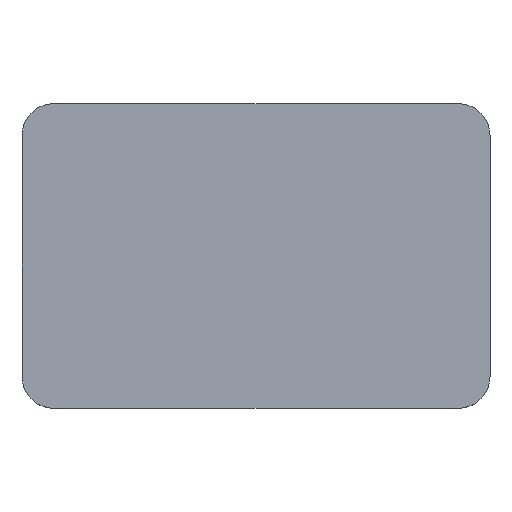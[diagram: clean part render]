
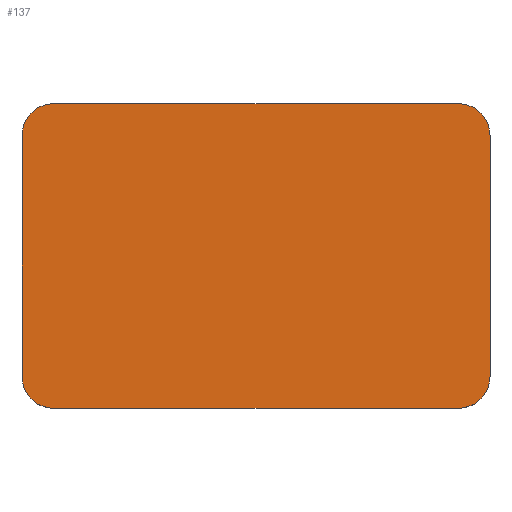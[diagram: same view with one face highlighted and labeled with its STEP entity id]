
A CAD part, top view. The second image highlights one B-rep face of the part: STEP entity #137.
In plain terms, the highlighted planar face has unit normal (0, 0, 1).
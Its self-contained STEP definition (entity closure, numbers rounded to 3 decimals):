
#21 = EDGE_CURVE('',#22,#24,#26,.T.);
#22 = VERTEX_POINT('',#23);
#23 = CARTESIAN_POINT('',(-25.65,-13.2,12.2));
#24 = VERTEX_POINT('',#25);
#25 = CARTESIAN_POINT('',(-25.65,13.2,12.2));
#26 = SURFACE_CURVE('',#27,(#31,#43),.PCURVE_S1.);
#27 = LINE('',#28,#29);
#28 = CARTESIAN_POINT('',(-25.65,-16.7,12.2));
#29 = VECTOR('',#30,1.);
#30 = DIRECTION('',(0.,1.,0.));
#31 = PCURVE('',#32,#37);
#32 = PLANE('',#33);
#33 = AXIS2_PLACEMENT_3D('',#34,#35,#36);
#34 = CARTESIAN_POINT('',(-25.65,-16.7,8.));
#35 = DIRECTION('',(1.,0.,0.));
#36 = DIRECTION('',(0.,0.,1.));
#37 = DEFINITIONAL_REPRESENTATION('',(#38),#42);
#38 = LINE('',#39,#40);
#39 = CARTESIAN_POINT('',(4.2,0.));
#40 = VECTOR('',#41,1.);
#41 = DIRECTION('',(0.,-1.));
#42 = ( GEOMETRIC_REPRESENTATION_CONTEXT(2) 
PARAMETRIC_REPRESENTATION_CONTEXT() REPRESENTATION_CONTEXT('2D SPACE',''
  ) );
#43 = PCURVE('',#44,#49);
#44 = PLANE('',#45);
#45 = AXIS2_PLACEMENT_3D('',#46,#47,#48);
#46 = CARTESIAN_POINT('',(-25.65,-16.7,12.2));
#47 = DIRECTION('',(0.,0.,1.));
#48 = DIRECTION('',(1.,0.,0.));
#49 = DEFINITIONAL_REPRESENTATION('',(#50),#54);
#50 = LINE('',#51,#52);
#51 = CARTESIAN_POINT('',(0.,0.));
#52 = VECTOR('',#53,1.);
#53 = DIRECTION('',(0.,1.));
#54 = ( GEOMETRIC_REPRESENTATION_CONTEXT(2) 
PARAMETRIC_REPRESENTATION_CONTEXT() REPRESENTATION_CONTEXT('2D SPACE',''
  ) );
#72 = CYLINDRICAL_SURFACE('',#73,3.5);
#73 = AXIS2_PLACEMENT_3D('',#74,#75,#76);
#74 = CARTESIAN_POINT('',(-22.15,-13.2,8.));
#75 = DIRECTION('',(0.,0.,1.));
#76 = DIRECTION('',(-1.,-0.,0.));
#126 = CYLINDRICAL_SURFACE('',#127,3.5);
#127 = AXIS2_PLACEMENT_3D('',#128,#129,#130);
#128 = CARTESIAN_POINT('',(-22.15,13.2,8.));
#129 = DIRECTION('',(0.,0.,1.));
#130 = DIRECTION('',(-1.,-0.,0.));
#137 = ADVANCED_FACE('',(#138),#44,.T.);
#138 = FACE_BOUND('',#139,.T.);
#139 = EDGE_LOOP('',(#140,#141,#165,#193,#226,#254,#283,#311));
#140 = ORIENTED_EDGE('',*,*,#21,.F.);
#141 = ORIENTED_EDGE('',*,*,#142,.T.);
#142 = EDGE_CURVE('',#22,#143,#145,.T.);
#143 = VERTEX_POINT('',#144);
#144 = CARTESIAN_POINT('',(-22.15,-16.7,12.2));
#145 = SURFACE_CURVE('',#146,(#151,#158),.PCURVE_S1.);
#146 = CIRCLE('',#147,3.5);
#147 = AXIS2_PLACEMENT_3D('',#148,#149,#150);
#148 = CARTESIAN_POINT('',(-22.15,-13.2,12.2));
#149 = DIRECTION('',(0.,0.,1.));
#150 = DIRECTION('',(0.,-1.,0.));
#151 = PCURVE('',#44,#152);
#152 = DEFINITIONAL_REPRESENTATION('',(#153),#157);
#153 = CIRCLE('',#154,3.5);
#154 = AXIS2_PLACEMENT_2D('',#155,#156);
#155 = CARTESIAN_POINT('',(3.5,3.5));
#156 = DIRECTION('',(0.,-1.));
#157 = ( GEOMETRIC_REPRESENTATION_CONTEXT(2) 
PARAMETRIC_REPRESENTATION_CONTEXT() REPRESENTATION_CONTEXT('2D SPACE',''
  ) );
#158 = PCURVE('',#72,#159);
#159 = DEFINITIONAL_REPRESENTATION('',(#160),#164);
#160 = LINE('',#161,#162);
#161 = CARTESIAN_POINT('',(-4.712,4.2));
#162 = VECTOR('',#163,1.);
#163 = DIRECTION('',(1.,0.));
#164 = ( GEOMETRIC_REPRESENTATION_CONTEXT(2) 
PARAMETRIC_REPRESENTATION_CONTEXT() REPRESENTATION_CONTEXT('2D SPACE',''
  ) );
#165 = ORIENTED_EDGE('',*,*,#166,.T.);
#166 = EDGE_CURVE('',#143,#167,#169,.T.);
#167 = VERTEX_POINT('',#168);
#168 = CARTESIAN_POINT('',(22.15,-16.7,12.2));
#169 = SURFACE_CURVE('',#170,(#174,#181),.PCURVE_S1.);
#170 = LINE('',#171,#172);
#171 = CARTESIAN_POINT('',(-25.65,-16.7,12.2));
#172 = VECTOR('',#173,1.);
#173 = DIRECTION('',(1.,0.,0.));
#174 = PCURVE('',#44,#175);
#175 = DEFINITIONAL_REPRESENTATION('',(#176),#180);
#176 = LINE('',#177,#178);
#177 = CARTESIAN_POINT('',(0.,0.));
#178 = VECTOR('',#179,1.);
#179 = DIRECTION('',(1.,0.));
#180 = ( GEOMETRIC_REPRESENTATION_CONTEXT(2) 
PARAMETRIC_REPRESENTATION_CONTEXT() REPRESENTATION_CONTEXT('2D SPACE',''
  ) );
#181 = PCURVE('',#182,#187);
#182 = PLANE('',#183);
#183 = AXIS2_PLACEMENT_3D('',#184,#185,#186);
#184 = CARTESIAN_POINT('',(-25.65,-16.7,8.));
#185 = DIRECTION('',(0.,1.,0.));
#186 = DIRECTION('',(0.,0.,1.));
#187 = DEFINITIONAL_REPRESENTATION('',(#188),#192);
#188 = LINE('',#189,#190);
#189 = CARTESIAN_POINT('',(4.2,0.));
#190 = VECTOR('',#191,1.);
#191 = DIRECTION('',(0.,1.));
#192 = ( GEOMETRIC_REPRESENTATION_CONTEXT(2) 
PARAMETRIC_REPRESENTATION_CONTEXT() REPRESENTATION_CONTEXT('2D SPACE',''
  ) );
#193 = ORIENTED_EDGE('',*,*,#194,.F.);
#194 = EDGE_CURVE('',#195,#167,#197,.T.);
#195 = VERTEX_POINT('',#196);
#196 = CARTESIAN_POINT('',(25.65,-13.2,12.2));
#197 = SURFACE_CURVE('',#198,(#203,#214),.PCURVE_S1.);
#198 = CIRCLE('',#199,3.5);
#199 = AXIS2_PLACEMENT_3D('',#200,#201,#202);
#200 = CARTESIAN_POINT('',(22.15,-13.2,12.2));
#201 = DIRECTION('',(-0.,-0.,-1.));
#202 = DIRECTION('',(0.,-1.,0.));
#203 = PCURVE('',#44,#204);
#204 = DEFINITIONAL_REPRESENTATION('',(#205),#213);
#205 = ( BOUNDED_CURVE() B_SPLINE_CURVE(2,(#206,#207,#208,#209,#210,#211
,#212),.UNSPECIFIED.,.T.,.F.) B_SPLINE_CURVE_WITH_KNOTS((1,2,2,2,2,1),(
    -2.094,0.,2.094,4.189,6.283,
8.378),.UNSPECIFIED.) CURVE() GEOMETRIC_REPRESENTATION_ITEM() 
RATIONAL_B_SPLINE_CURVE((1.,0.5,1.,0.5,1.,0.5,1.)) REPRESENTATION_ITEM(
  '') );
#206 = CARTESIAN_POINT('',(47.8,0.));
#207 = CARTESIAN_POINT('',(41.738,0.));
#208 = CARTESIAN_POINT('',(44.769,5.25));
#209 = CARTESIAN_POINT('',(47.8,10.5));
#210 = CARTESIAN_POINT('',(50.831,5.25));
#211 = CARTESIAN_POINT('',(53.862,0.));
#212 = CARTESIAN_POINT('',(47.8,0.));
#213 = ( GEOMETRIC_REPRESENTATION_CONTEXT(2) 
PARAMETRIC_REPRESENTATION_CONTEXT() REPRESENTATION_CONTEXT('2D SPACE',''
  ) );
#214 = PCURVE('',#215,#220);
#215 = CYLINDRICAL_SURFACE('',#216,3.5);
#216 = AXIS2_PLACEMENT_3D('',#217,#218,#219);
#217 = CARTESIAN_POINT('',(22.15,-13.2,8.));
#218 = DIRECTION('',(0.,0.,1.));
#219 = DIRECTION('',(1.,0.,-0.));
#220 = DEFINITIONAL_REPRESENTATION('',(#221),#225);
#221 = LINE('',#222,#223);
#222 = CARTESIAN_POINT('',(4.712,4.2));
#223 = VECTOR('',#224,1.);
#224 = DIRECTION('',(-1.,0.));
#225 = ( GEOMETRIC_REPRESENTATION_CONTEXT(2) 
PARAMETRIC_REPRESENTATION_CONTEXT() REPRESENTATION_CONTEXT('2D SPACE',''
  ) );
#226 = ORIENTED_EDGE('',*,*,#227,.T.);
#227 = EDGE_CURVE('',#195,#228,#230,.T.);
#228 = VERTEX_POINT('',#229);
#229 = CARTESIAN_POINT('',(25.65,13.2,12.2));
#230 = SURFACE_CURVE('',#231,(#235,#242),.PCURVE_S1.);
#231 = LINE('',#232,#233);
#232 = CARTESIAN_POINT('',(25.65,-16.7,12.2));
#233 = VECTOR('',#234,1.);
#234 = DIRECTION('',(0.,1.,0.));
#235 = PCURVE('',#44,#236);
#236 = DEFINITIONAL_REPRESENTATION('',(#237),#241);
#237 = LINE('',#238,#239);
#238 = CARTESIAN_POINT('',(51.3,0.));
#239 = VECTOR('',#240,1.);
#240 = DIRECTION('',(0.,1.));
#241 = ( GEOMETRIC_REPRESENTATION_CONTEXT(2) 
PARAMETRIC_REPRESENTATION_CONTEXT() REPRESENTATION_CONTEXT('2D SPACE',''
  ) );
#242 = PCURVE('',#243,#248);
#243 = PLANE('',#244);
#244 = AXIS2_PLACEMENT_3D('',#245,#246,#247);
#245 = CARTESIAN_POINT('',(25.65,-16.7,8.));
#246 = DIRECTION('',(1.,0.,0.));
#247 = DIRECTION('',(0.,0.,1.));
#248 = DEFINITIONAL_REPRESENTATION('',(#249),#253);
#249 = LINE('',#250,#251);
#250 = CARTESIAN_POINT('',(4.2,0.));
#251 = VECTOR('',#252,1.);
#252 = DIRECTION('',(0.,-1.));
#253 = ( GEOMETRIC_REPRESENTATION_CONTEXT(2) 
PARAMETRIC_REPRESENTATION_CONTEXT() REPRESENTATION_CONTEXT('2D SPACE',''
  ) );
#254 = ORIENTED_EDGE('',*,*,#255,.T.);
#255 = EDGE_CURVE('',#228,#256,#258,.T.);
#256 = VERTEX_POINT('',#257);
#257 = CARTESIAN_POINT('',(22.15,16.7,12.2));
#258 = SURFACE_CURVE('',#259,(#264,#271),.PCURVE_S1.);
#259 = CIRCLE('',#260,3.5);
#260 = AXIS2_PLACEMENT_3D('',#261,#262,#263);
#261 = CARTESIAN_POINT('',(22.15,13.2,12.2));
#262 = DIRECTION('',(0.,0.,1.));
#263 = DIRECTION('',(0.,-1.,0.));
#264 = PCURVE('',#44,#265);
#265 = DEFINITIONAL_REPRESENTATION('',(#266),#270);
#266 = CIRCLE('',#267,3.5);
#267 = AXIS2_PLACEMENT_2D('',#268,#269);
#268 = CARTESIAN_POINT('',(47.8,29.9));
#269 = DIRECTION('',(0.,-1.));
#270 = ( GEOMETRIC_REPRESENTATION_CONTEXT(2) 
PARAMETRIC_REPRESENTATION_CONTEXT() REPRESENTATION_CONTEXT('2D SPACE',''
  ) );
#271 = PCURVE('',#272,#277);
#272 = CYLINDRICAL_SURFACE('',#273,3.5);
#273 = AXIS2_PLACEMENT_3D('',#274,#275,#276);
#274 = CARTESIAN_POINT('',(22.15,13.2,8.));
#275 = DIRECTION('',(0.,0.,1.));
#276 = DIRECTION('',(1.,0.,-0.));
#277 = DEFINITIONAL_REPRESENTATION('',(#278),#282);
#278 = LINE('',#279,#280);
#279 = CARTESIAN_POINT('',(-1.571,4.2));
#280 = VECTOR('',#281,1.);
#281 = DIRECTION('',(1.,0.));
#282 = ( GEOMETRIC_REPRESENTATION_CONTEXT(2) 
PARAMETRIC_REPRESENTATION_CONTEXT() REPRESENTATION_CONTEXT('2D SPACE',''
  ) );
#283 = ORIENTED_EDGE('',*,*,#284,.F.);
#284 = EDGE_CURVE('',#285,#256,#287,.T.);
#285 = VERTEX_POINT('',#286);
#286 = CARTESIAN_POINT('',(-22.15,16.7,12.2));
#287 = SURFACE_CURVE('',#288,(#292,#299),.PCURVE_S1.);
#288 = LINE('',#289,#290);
#289 = CARTESIAN_POINT('',(-25.65,16.7,12.2));
#290 = VECTOR('',#291,1.);
#291 = DIRECTION('',(1.,0.,0.));
#292 = PCURVE('',#44,#293);
#293 = DEFINITIONAL_REPRESENTATION('',(#294),#298);
#294 = LINE('',#295,#296);
#295 = CARTESIAN_POINT('',(0.,33.4));
#296 = VECTOR('',#297,1.);
#297 = DIRECTION('',(1.,0.));
#298 = ( GEOMETRIC_REPRESENTATION_CONTEXT(2) 
PARAMETRIC_REPRESENTATION_CONTEXT() REPRESENTATION_CONTEXT('2D SPACE',''
  ) );
#299 = PCURVE('',#300,#305);
#300 = PLANE('',#301);
#301 = AXIS2_PLACEMENT_3D('',#302,#303,#304);
#302 = CARTESIAN_POINT('',(-25.65,16.7,8.));
#303 = DIRECTION('',(0.,1.,0.));
#304 = DIRECTION('',(0.,0.,1.));
#305 = DEFINITIONAL_REPRESENTATION('',(#306),#310);
#306 = LINE('',#307,#308);
#307 = CARTESIAN_POINT('',(4.2,0.));
#308 = VECTOR('',#309,1.);
#309 = DIRECTION('',(0.,1.));
#310 = ( GEOMETRIC_REPRESENTATION_CONTEXT(2) 
PARAMETRIC_REPRESENTATION_CONTEXT() REPRESENTATION_CONTEXT('2D SPACE',''
  ) );
#311 = ORIENTED_EDGE('',*,*,#312,.F.);
#312 = EDGE_CURVE('',#24,#285,#313,.T.);
#313 = SURFACE_CURVE('',#314,(#319,#330),.PCURVE_S1.);
#314 = CIRCLE('',#315,3.5);
#315 = AXIS2_PLACEMENT_3D('',#316,#317,#318);
#316 = CARTESIAN_POINT('',(-22.15,13.2,12.2));
#317 = DIRECTION('',(-0.,-0.,-1.));
#318 = DIRECTION('',(0.,-1.,0.));
#319 = PCURVE('',#44,#320);
#320 = DEFINITIONAL_REPRESENTATION('',(#321),#329);
#321 = ( BOUNDED_CURVE() B_SPLINE_CURVE(2,(#322,#323,#324,#325,#326,#327
,#328),.UNSPECIFIED.,.T.,.F.) B_SPLINE_CURVE_WITH_KNOTS((1,2,2,2,2,1),(
    -2.094,0.,2.094,4.189,6.283,
8.378),.UNSPECIFIED.) CURVE() GEOMETRIC_REPRESENTATION_ITEM() 
RATIONAL_B_SPLINE_CURVE((1.,0.5,1.,0.5,1.,0.5,1.)) REPRESENTATION_ITEM(
  '') );
#322 = CARTESIAN_POINT('',(3.5,26.4));
#323 = CARTESIAN_POINT('',(-2.562,26.4));
#324 = CARTESIAN_POINT('',(0.469,31.65));
#325 = CARTESIAN_POINT('',(3.5,36.9));
#326 = CARTESIAN_POINT('',(6.531,31.65));
#327 = CARTESIAN_POINT('',(9.562,26.4));
#328 = CARTESIAN_POINT('',(3.5,26.4));
#329 = ( GEOMETRIC_REPRESENTATION_CONTEXT(2) 
PARAMETRIC_REPRESENTATION_CONTEXT() REPRESENTATION_CONTEXT('2D SPACE',''
  ) );
#330 = PCURVE('',#126,#331);
#331 = DEFINITIONAL_REPRESENTATION('',(#332),#336);
#332 = LINE('',#333,#334);
#333 = CARTESIAN_POINT('',(1.571,4.2));
#334 = VECTOR('',#335,1.);
#335 = DIRECTION('',(-1.,0.));
#336 = ( GEOMETRIC_REPRESENTATION_CONTEXT(2) 
PARAMETRIC_REPRESENTATION_CONTEXT() REPRESENTATION_CONTEXT('2D SPACE',''
  ) );
